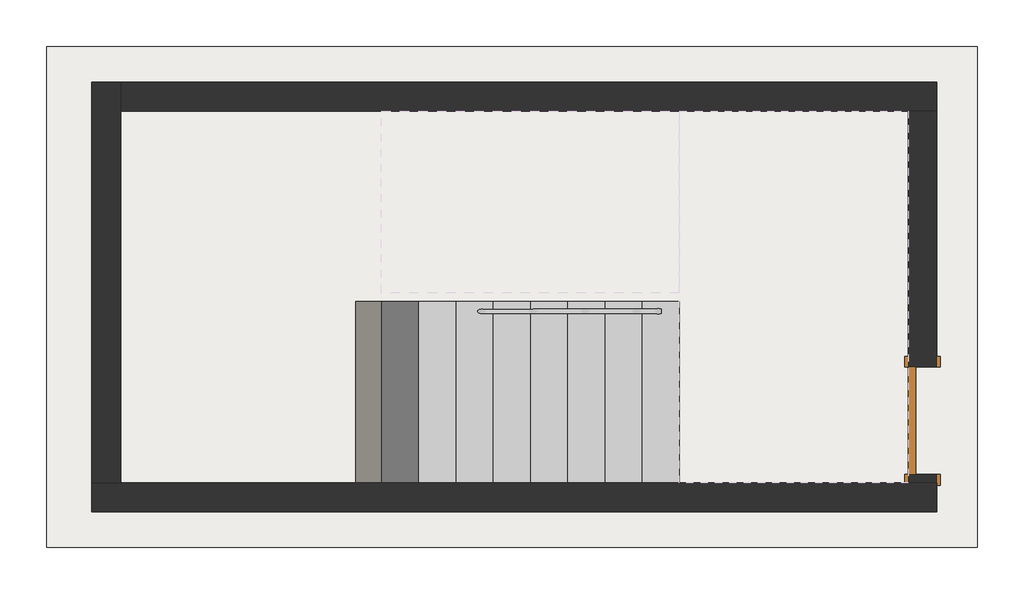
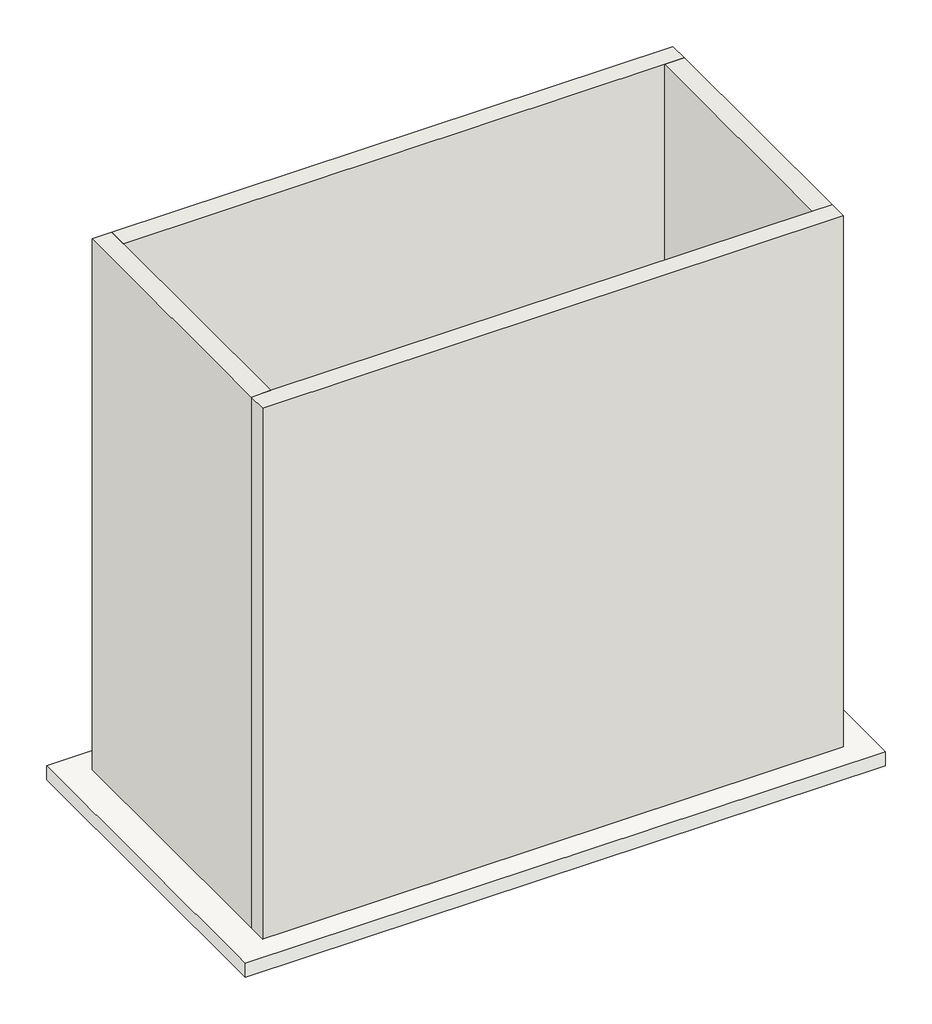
# One storey, part 1 of 2: 4 walls, 3 slabs, 1 door, 1 stair flight.
"""IFC4 building model written with IfcOpenShell, lengths in millimetres."""

from ifc_helpers import new_model, si_unit, frame, origin, place, context, project, spatial, polyline, outline, extrude, faceted_brep, transform, mapped, element, save
from components import m_580c2f92

model = new_model("IFC4")

# Units and contexts
model_context = context("Model", 3, world=origin())
ifc_project = project(units=[si_unit("LENGTHUNIT", "METRE", prefix="MILLI")], contexts=[model_context])

# Site, building, storey
site = spatial("IfcSite", under=ifc_project)
building = spatial("IfcBuilding", under=site)
storey = spatial("IfcBuildingStorey", under=building, Name="标高 1", Elevation=0.0)

# Door
placement = place(None, origin())
m_shape = m_580c2f92(model_context)
element("IfcDoor", 1, ObjectType="单扇 - 与墙齐 : M", at=placement, inside=storey, context=model_context, shape_type="MappedRepresentation", body=[
    mapped(m_shape, transform((7309.1227165, -1858.3269479, 0.0), x_axis=(0.0, -1.0, 0.0), y_axis=(1.0, 0.0, 0.0), z_axis=(0.0, 0.0, 1.0))),
])

# Slabs
element("IfcSlab", 2, ObjectType="200厚度", at=placement, inside=storey, context=model_context, shape_type="Brep", body=[
    faceted_brep([(3529.1227165, -2293.3269479, 1425.0), (3529.1227165, -1023.3269479, 1425.0), (3529.1227165, -963.3269479, 1425.0), (3529.1227165, 306.6730521, 1425.0), (3489.0963034, 306.6730521, 1425.0), (1709.1227165, 306.6730521, 1425.0), (1709.1227165, -2293.3269479, 1425.0), (3309.1491295, -2293.3269479, 1425.0), (3529.1227165, -2293.3269479, 1266.6666667), (3529.1227165, -2293.3269479, 1091.0417259), (3529.1227165, -1023.3269479, 1091.0417259), (3529.1227165, -1023.3269479, 1225.0), (3529.1227165, -963.3269479, 1225.0), (3529.1227165, -963.3269479, 1249.3750592), (3529.1227165, 306.6730521, 1249.3750592), (3489.0963034, 306.6730521, 1225.0), (1709.1227165, 306.6730521, 1225.0), (1709.1227165, -2293.3269479, 1225.0), (3309.1491295, -2293.3269479, 1225.0), (3489.0963034, -963.3269479, 1225.0), (3309.1491295, -1023.3269479, 1225.0)], [[[0, 1, 2, 3, 4, 5, 6, 7]], [[1, 0, 8, 9, 10, 11]], [[2, 1, 11, 12, 13]], [[3, 2, 13, 14]], [[3, 14, 15, 16, 5, 4]], [[6, 5, 16, 17]], [[9, 8, 0, 7, 6, 17, 18]], [[19, 12, 11, 20, 18, 17, 16, 15]], [[12, 19, 13]], [[18, 20, 10, 9]], [[20, 11, 10]], [[19, 15, 14, 13]]]),
])
element("IfcSlab", 3, ObjectType="常规 - 150mm", at=placement, inside=storey, context=model_context, shape_type="SweptSolid", body=[
    extrude(outline(polyline([(7692.3784101, 757.8406531), (7692.3784101, -2742.1593469), (1192.3784101, -2742.1593469), (1192.3784101, 757.8406531), (7692.3784101, 757.8406531)])), frame((0.0, 0.0, -150.0), z_axis=(0.0, 0.0, 1.0), x_axis=(1.0, 0.0, 0.0)), (0.0, 0.0, 1.0), 150.0),
])
element("IfcSlab", 4, ObjectType="常规 - 150mm", at=placement, inside=storey, context=model_context, shape_type="SweptSolid", body=[
    extrude(outline(polyline([(7692.3784101, 757.8406531), (7692.3784101, -2742.1593469), (1192.3784101, -2742.1593469), (1192.3784101, 757.8406531), (7692.3784101, 757.8406531)])), frame((0.0, 0.0, -150.0), z_axis=(0.0, 0.0, 1.0), x_axis=(1.0, 0.0, 0.0)), (0.0, 0.0, 1.0), 150.0),
])

# Stair flight
element("IfcStairFlight", 5, ObjectType="150mm 结构深度", at=placement, inside=storey, context=model_context, shape_type="Brep", body=[
    faceted_brep([(5349.1227165, -2293.3269479, 158.3333333), (5609.1227165, -2293.3269479, 158.3333333), (5609.1227165, -1023.3269479, 158.3333333), (5349.1227165, -1023.3269479, 158.3333333), (5349.1227165, -2293.3269479, 0.0), (5609.1227165, -2293.3269479, 0.0), (5609.1227165, -1023.3269479, 0.0), (5349.1227165, -1023.3269479, 0.0), (5089.1227165, -2293.3269479, 316.6666667), (5349.1227165, -2293.3269479, 316.6666667), (5349.1227165, -1023.3269479, 316.6666667), (5089.1227165, -1023.3269479, 316.6666667), (5089.1227165, -2293.3269479, 141.0417259), (5320.7280769, -2293.3269479, 0.0), (5320.7280769, -1023.3269479, 0.0), (5089.1227165, -1023.3269479, 141.0417259), (4829.1227165, -2293.3269479, 475.0), (5089.1227165, -2293.3269479, 475.0), (5089.1227165, -1023.3269479, 475.0), (4829.1227165, -1023.3269479, 475.0), (4829.1227165, -2293.3269479, 299.3750592), (4829.1227165, -1023.3269479, 299.3750592), (4569.1227165, -2293.3269479, 633.3333333), (4829.1227165, -2293.3269479, 633.3333333), (4829.1227165, -1023.3269479, 633.3333333), (4569.1227165, -1023.3269479, 633.3333333), (4569.1227165, -2293.3269479, 457.7083926), (4569.1227165, -1023.3269479, 457.7083926), (4309.1227165, -2293.3269479, 791.6666667), (4569.1227165, -2293.3269479, 791.6666667), (4569.1227165, -1023.3269479, 791.6666667), (4309.1227165, -1023.3269479, 791.6666667), (4309.1227165, -2293.3269479, 616.0417259), (4309.1227165, -1023.3269479, 616.0417259), (4049.1227165, -2293.3269479, 950.0), (4309.1227165, -2293.3269479, 950.0), (4309.1227165, -1023.3269479, 950.0), (4049.1227165, -1023.3269479, 950.0), (4049.1227165, -2293.3269479, 774.3750592), (4049.1227165, -1023.3269479, 774.3750592), (3789.1227165, -2293.3269479, 1108.3333333), (4049.1227165, -2293.3269479, 1108.3333333), (4049.1227165, -1023.3269479, 1108.3333333), (3789.1227165, -1023.3269479, 1108.3333333), (3789.1227165, -2293.3269479, 932.7083926), (3789.1227165, -1023.3269479, 932.7083926), (3529.1227165, -2293.3269479, 1266.6666667), (3789.1227165, -2293.3269479, 1266.6666667), (3789.1227165, -1023.3269479, 1266.6666667), (3529.1227165, -1023.3269479, 1266.6666667), (3529.1227165, -2293.3269479, 1091.0417259), (3529.1227165, -1023.3269479, 1091.0417259), (3529.1227165, -1023.3269479, 1225.0)], [[[0, 1, 2, 3]], [[1, 0, 4, 5]], [[2, 1, 5, 6]], [[3, 2, 6, 7]], [[8, 9, 10, 11]], [[4, 0, 9, 8, 12, 13]], [[0, 3, 10, 9]], [[3, 7, 14, 15, 11, 10]], [[16, 17, 18, 19]], [[17, 16, 20, 12, 8]], [[8, 11, 18, 17]], [[19, 18, 11, 15, 21]], [[22, 23, 24, 25]], [[23, 22, 26, 20, 16]], [[16, 19, 24, 23]], [[25, 24, 19, 21, 27]], [[28, 29, 30, 31]], [[29, 28, 32, 26, 22]], [[22, 25, 30, 29]], [[31, 30, 25, 27, 33]], [[34, 35, 36, 37]], [[35, 34, 38, 32, 28]], [[28, 31, 36, 35]], [[37, 36, 31, 33, 39]], [[40, 41, 42, 43]], [[41, 40, 44, 38, 34]], [[34, 37, 42, 41]], [[43, 42, 37, 39, 45]], [[46, 47, 48, 49]], [[47, 46, 50, 44, 40]], [[40, 43, 48, 47]], [[49, 48, 43, 45, 51, 52]], [[46, 49, 52, 51, 50]], [[5, 4, 13, 14, 7, 6]], [[14, 13, 12, 20, 26, 32, 38, 44, 50, 51, 45, 39, 33, 27, 21, 15]]]),
])

# Walls
element("IfcWall", 6, ObjectType="常规 - 200mm", at=placement, inside=storey, context=model_context, shape_type="Brep", body=[
    faceted_brep([(7409.1227165, -2293.3269479, 0.0), (7209.1227165, -2293.3269479, 0.0), (1709.1227165, -2293.3269479, 0.0), (1509.1227165, -2293.3269479, 0.0), (1509.1227165, -2293.3269479, 5700.0), (1709.1227165, -2293.3269479, 5700.0), (7209.1227165, -2293.3269479, 5700.0), (7409.1227165, -2293.3269479, 5700.0), (7409.1227165, -2493.3269479, 0.0), (7409.1227165, -2493.3269479, 5700.0), (1509.1227165, -2493.3269479, 5700.0), (1509.1227165, -2493.3269479, 0.0)], [[[0, 1, 2, 3, 4, 5, 6, 7]], [[8, 9, 10, 11]], [[3, 2, 1, 0, 8, 11]], [[7, 6, 5, 4, 10, 9]], [[4, 3, 11, 10]], [[0, 7, 9, 8]]]),
])
element("IfcWall", 7, ObjectType="常规 - 200mm", at=placement, inside=storey, context=model_context, shape_type="Brep", body=[
    faceted_brep([(1709.1227165, -2293.3269479, 0.0), (1709.1227165, 306.6730521, 0.0), (1709.1227165, 506.6730521, 0.0), (1709.1227165, 506.6730521, 5700.0), (1709.1227165, 306.6730521, 5700.0), (1709.1227165, -2293.3269479, 5700.0), (1509.1227165, -2293.3269479, 0.0), (1509.1227165, -2293.3269479, 5700.0), (1509.1227165, 506.6730521, 5700.0), (1509.1227165, 506.6730521, 0.0)], [[[0, 1, 2, 3, 4, 5]], [[6, 7, 8, 9]], [[2, 1, 0, 6, 9]], [[5, 4, 3, 8, 7]], [[0, 5, 7, 6]], [[3, 2, 9, 8]]]),
])
element("IfcWall", 8, ObjectType="常规 - 200mm", at=placement, inside=storey, context=model_context, shape_type="Brep", body=[
    faceted_brep([(1709.1227165, 306.6730521, 0.0), (7209.1227165, 306.6730521, 0.0), (7409.1227165, 306.6730521, 0.0), (7409.1227165, 306.6730521, 5700.0), (7209.1227165, 306.6730521, 5700.0), (1709.1227165, 306.6730521, 5700.0), (1709.1227165, 506.6730521, 0.0), (1709.1227165, 506.6730521, 5700.0), (7409.1227165, 506.6730521, 5700.0), (7409.1227165, 506.6730521, 0.0)], [[[0, 1, 2, 3, 4, 5]], [[6, 7, 8, 9]], [[2, 1, 0, 6, 9]], [[5, 4, 3, 8, 7]], [[0, 5, 7, 6]], [[3, 2, 9, 8]]]),
])
element("IfcWall", 9, ObjectType="常规 - 200mm", at=placement, inside=storey, context=model_context, shape_type="SweptSolid", body=[
    extrude(outline(polyline([(-2233.3269479, 2150.0), (-2233.3269479, 0.0), (-2293.3269479, 0.0), (-2293.3269479, 5700.0), (306.6730521, 5700.0), (306.6730521, 0.0), (-1483.3269479, 0.0), (-1483.3269479, 2150.0), (-2233.3269479, 2150.0)]), holes=[polyline([(-1483.3269479, 2850.0), (-1483.3269479, 5000.0), (-2233.3269479, 5000.0), (-2233.3269479, 2850.0), (-1483.3269479, 2850.0)])]), frame((7209.1227165, 0.0, 0.0), z_axis=(1.0, 0.0, 0.0), x_axis=(0.0, 1.0, 0.0)), (0.0, 0.0, 1.0), 200.0),
])

save(model, "model.ifc")
